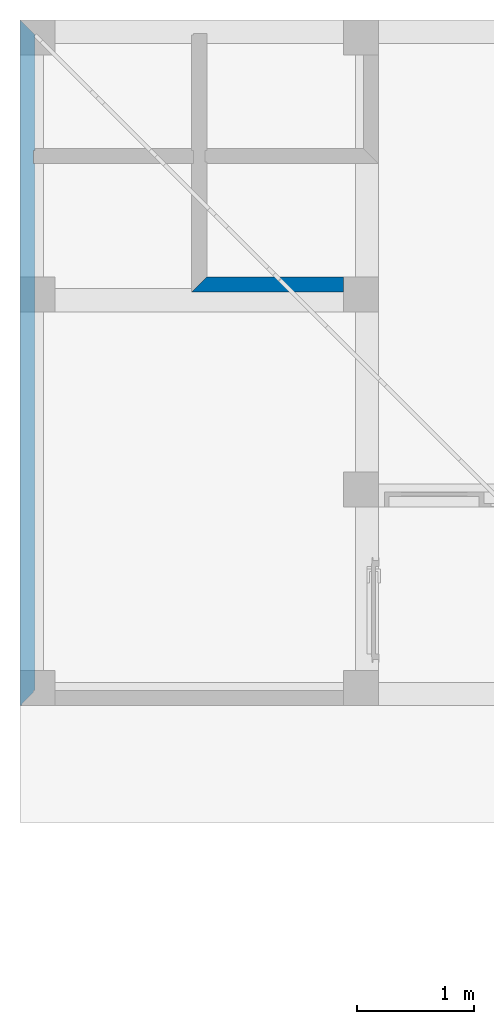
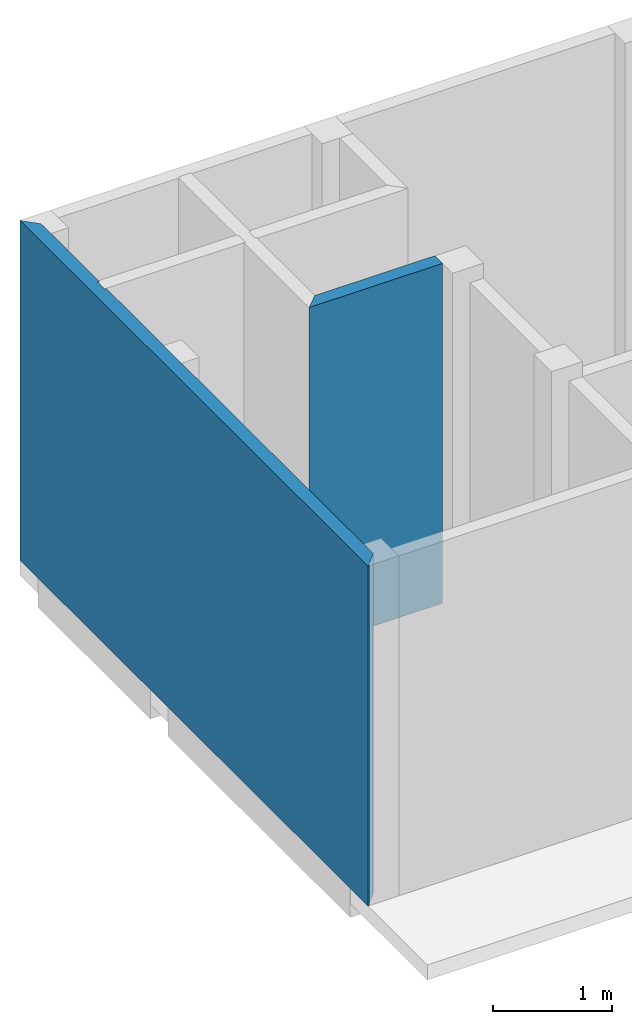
# One storey, part 4 of 10: 2 walls.
"""IFC4X3_ADD2 building model written with IfcOpenShell, lengths in millimetres."""

from ifc_helpers import new_model, entity, si_unit, converted_unit, frame, origin_with_axes, origin_2d_with_axis, place, context, subcontext, project, spatial, line, indexed_curve, outline, extrude, material, layer, layer_set, layer_usage, type_object, element, save


model = new_model("IFC4X3_ADD2")

# Units and contexts
model_context = context("Model", 3, precision=1e-05, world=origin_with_axes())
plan_context = context("Plan", 2, precision=1e-05, world=origin_2d_with_axis())
body_context = subcontext(model_context, "Body", "Model", "MODEL_VIEW")
ifc_project = project(units=[si_unit("VOLUMEUNIT", "CUBIC_METRE"), si_unit("LENGTHUNIT", "METRE", prefix="MILLI"), converted_unit("PLANEANGLEUNIT", "degree", entity("IfcReal", 0.0174532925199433), si_unit("PLANEANGLEUNIT", "RADIAN"), dimensions=[0, 0, 0, 0, 0, 0, 0]), si_unit("AREAUNIT", "SQUARE_METRE")], contexts=[model_context, plan_context])

# Site, building, storey
site_placement = place(None, origin_with_axes())
site = spatial("IfcSite", under=ifc_project, at=site_placement, Name="My Site")
building_placement = place(site_placement, origin_with_axes())
building = spatial("IfcBuilding", under=site, at=building_placement, Name="My Building")
storey_placement = place(building_placement, origin_with_axes())
storey = spatial("IfcBuildingStorey", under=building, at=storey_placement, Name="Lantai 1")

# Walls
ifc_material_1 = material(Name="plester")
ifc_layer_1 = layer(ifc_material_1, 15.0000009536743, Priority=1)
ifc_material_2 = material(Name="brick", Category="Uncategorised")
ifc_layer_2 = layer(ifc_material_2, 100.0, Priority=4)
ifc_layer_3 = layer(ifc_material_1, 15.0000009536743)
ifc_layer_set = layer_set([ifc_layer_1, ifc_layer_2, ifc_layer_3])
ifc_layer_usage_1 = layer_usage(ifc_layer_set, "AXIS2", "NEGATIVE", 0.0)
wall_type = type_object("IfcWallType", Name="WALL-130", PredefinedType="SOLIDWALL", material=ifc_layer_set)
wall_1_placement = place(storey_placement, frame((-149.999996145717, -19.999735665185, 0.0), z_axis=(0.0, 0.0, 1.0), x_axis=(7.54979012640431e-08, 0.999999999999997, 0.0)))
element("IfcWall", 1, at=wall_1_placement, inside=storey, type_object=wall_type, material=ifc_layer_usage_1, Name="Wall", context=body_context, shape_type="SweptSolid", body=[
    extrude(outline(indexed_curve([(-1.55023381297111e-06, -130.000001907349), (-1.37136067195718e-06, -115.000000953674), (-15.000002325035, -115.000000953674), (-115.000001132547, -15.0000009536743), (-130.000002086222, -15.0000009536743), (-130.000001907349, 0.0), (5739.99952585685, 0.0), (5724.99952603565, -15.0000009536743), (5624.99953358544, -115.000000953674), (5609.99953376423, -130.000001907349), (4624.99957477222, -130.000001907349), (4624.99957363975, -115.000000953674), (4509.99957268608, -115.000000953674), (4509.99957381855, -130.000001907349)], segments=[line(1, 2, 3, 4, 5, 6, 7, 8, 9, 10, 11, 12, 13, 14, 1)])), origin_with_axes(), (0.0, 0.0, 1.0), 3500.00023841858),
])
ifc_layer_usage_2 = layer_usage(ifc_layer_set, "AXIS2", "NEGATIVE", -130.0)
wall_2_placement = place(storey_placement, frame((1515.00027102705, 3649.99998283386, 0.0), z_axis=(0.0, 0.0, 1.0), x_axis=(1.0, 0.0, 0.0)))
element("IfcWall", 2, at=wall_2_placement, inside=storey, type_object=wall_type, material=ifc_layer_usage_2, Name="Wall", context=body_context, shape_type="SweptSolid", body=[
    extrude(outline(indexed_curve([(-195.000014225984, -260.000001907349), (-180.000012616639, -245.000000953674), (-80.0000082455, -145.000000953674), (-65.0000066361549, -130.0), (1104.99948041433, -130.0), (1104.99948041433, -260.000001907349)], segments=[line(1, 2, 3, 4, 5, 6, 1)])), origin_with_axes(), (0.0, 0.0, 1.0), 3500.00023841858),
])

save(model, "model.ifc")
